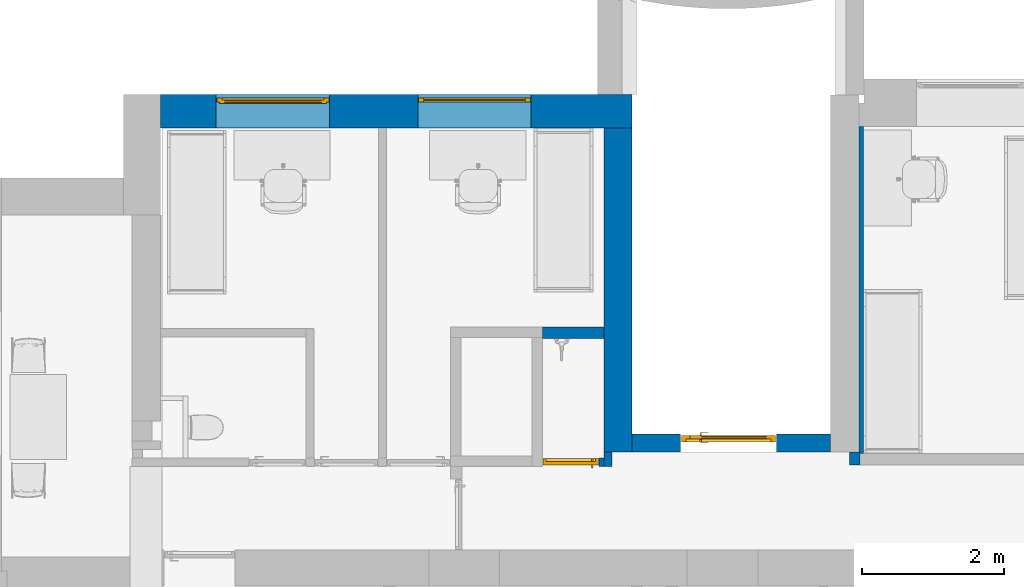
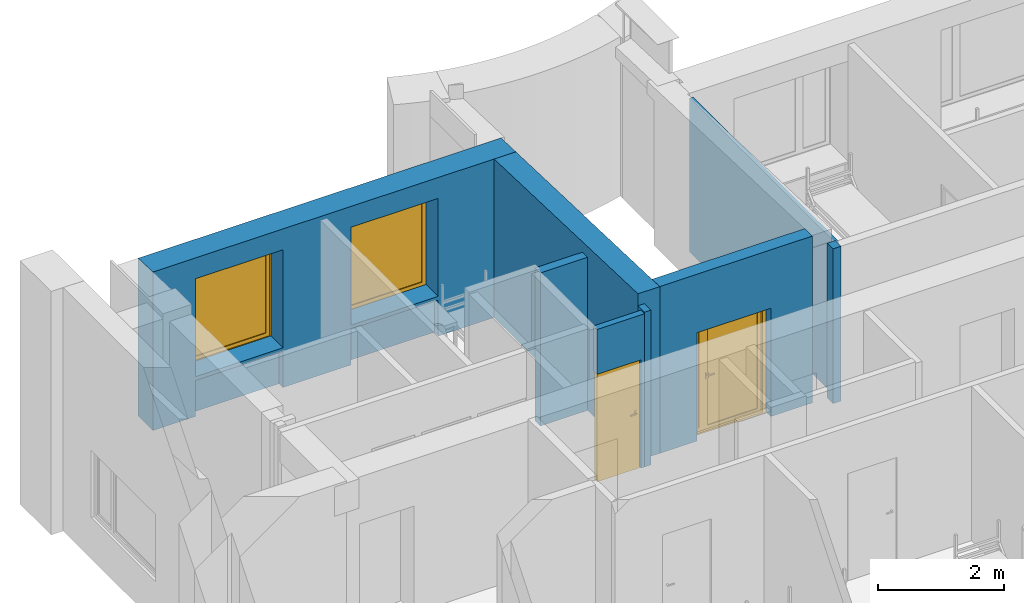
# One storey, part 6 of 46: 8 walls, 2 doors, 2 windows, 5 openings.
"""IFC2X3 building model written with IfcOpenShell, lengths in millimetres."""

from ifc_helpers import new_model, entity, si_unit, converted_unit, derived_unit, direction, frame, frame_2d, origin, origin_2d_with_axis, place, context, subcontext, project, spatial, polyline, rectangle, outline, extrude, clip, bounded_halfspace, faceted_brep, source, transform, mapped, material, material_list, layer, layer_set, layer_usage, type_object, type_shapes, element, fill, save


model = new_model("IFC2X3")

# Units and contexts
model_context = context("Model", 3, precision=0.01, world=origin(), true_north=direction((6.12303176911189e-17, 1.0)))
body_context = subcontext(model_context, "Body", "Model", "MODEL_VIEW")
ifc_project = project(units=[si_unit("LENGTHUNIT", "METRE", prefix="MILLI"), si_unit("AREAUNIT", "SQUARE_METRE"), si_unit("VOLUMEUNIT", "CUBIC_METRE"), converted_unit("PLANEANGLEUNIT", "DEGREE", entity("IfcRatioMeasure", 0.0174532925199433), si_unit("PLANEANGLEUNIT", "RADIAN"), dimensions=[0, 0, 0, 0, 0, 0, 0]), si_unit("MASSUNIT", "GRAM", prefix="KILO"), derived_unit("MASSDENSITYUNIT", [(si_unit("MASSUNIT", "GRAM", prefix="KILO"), 1), (si_unit("LENGTHUNIT", "METRE"), -3)]), si_unit("TIMEUNIT", "SECOND"), si_unit("FREQUENCYUNIT", "HERTZ"), si_unit("THERMODYNAMICTEMPERATUREUNIT", "DEGREE_CELSIUS"), derived_unit("THERMALTRANSMITTANCEUNIT", [(si_unit("MASSUNIT", "GRAM", prefix="KILO"), 1), (si_unit("THERMODYNAMICTEMPERATUREUNIT", "KELVIN"), -1), (si_unit("TIMEUNIT", "SECOND"), -3)]), derived_unit("VOLUMETRICFLOWRATEUNIT", [(si_unit("LENGTHUNIT", "METRE"), 3), (si_unit("TIMEUNIT", "SECOND"), -1)]), si_unit("ELECTRICCURRENTUNIT", "AMPERE"), si_unit("ELECTRICVOLTAGEUNIT", "VOLT"), si_unit("POWERUNIT", "WATT"), si_unit("FORCEUNIT", "NEWTON", prefix="KILO"), si_unit("ILLUMINANCEUNIT", "LUX"), si_unit("LUMINOUSFLUXUNIT", "LUMEN"), si_unit("LUMINOUSINTENSITYUNIT", "CANDELA"), derived_unit("USERDEFINED", [(si_unit("MASSUNIT", "GRAM", prefix="KILO"), -1), (si_unit("LENGTHUNIT", "METRE"), -2), (si_unit("TIMEUNIT", "SECOND"), 3), (si_unit("LUMINOUSFLUXUNIT", "LUMEN"), 1)]), derived_unit("LINEARVELOCITYUNIT", [(si_unit("LENGTHUNIT", "METRE"), 1), (si_unit("TIMEUNIT", "SECOND"), -1)]), si_unit("PRESSUREUNIT", "PASCAL"), derived_unit("USERDEFINED", [(si_unit("LENGTHUNIT", "METRE"), -2), (si_unit("MASSUNIT", "GRAM", prefix="KILO"), 1), (si_unit("TIMEUNIT", "SECOND"), -2)]), derived_unit("LINEARFORCEUNIT", [(si_unit("MASSUNIT", "GRAM", prefix="KILO"), 1), (si_unit("LENGTHUNIT", "METRE"), 1), (si_unit("TIMEUNIT", "SECOND"), -2), (si_unit("LENGTHUNIT", "METRE"), -1)]), derived_unit("PLANARFORCEUNIT", [(si_unit("MASSUNIT", "GRAM", prefix="KILO"), 1), (si_unit("LENGTHUNIT", "METRE"), 1), (si_unit("TIMEUNIT", "SECOND"), -2), (si_unit("LENGTHUNIT", "METRE"), -2)])], contexts=[model_context])

# Site, building, storey
site_placement = place(None, origin())
site = spatial("IfcSite", under=ifc_project, at=site_placement, Name="Default", CompositionType="ELEMENT")
building_placement = place(site_placement, origin())
building = spatial("IfcBuilding", under=site, at=building_placement, Name="SMA ARH", CompositionType="ELEMENT")
storey_placement = place(building_placement, frame((0.0, 0.0, 9910.0)))
storey = spatial("IfcBuildingStorey", under=building, at=storey_placement, Name="4 Korrus", CompositionType="ELEMENT", Elevation=9909.9999999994)

# Wall
ifc_material_1 = material(Name="_ol.olev sein")
ifc_layer_1 = layer(ifc_material_1, 400.0)
ifc_layer_set_1 = layer_set([ifc_layer_1], Name="Basic Wall:Generic - 400mm")
ifc_layer_usage_1 = layer_usage(ifc_layer_set_1, "AXIS2", "POSITIVE", -200.0)
wall_type_1 = type_object("IfcWallType", Name="Basic Wall:Generic - 400mm", PredefinedType="STANDARD", material=ifc_layer_set_1)
wall_1_placement = place(storey_placement, frame((8600.0, 12476.2030428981, 0.0), z_axis=(0.0, 0.0, 1.0), x_axis=(0.0, -1.0, 0.0)))
element("IfcWallStandardCase", 1, at=wall_1_placement, inside=storey, type_object=wall_type_1, material=ifc_layer_usage_1, Name="Basic Wall:Generic - 400mm", ObjectType="Basic Wall:Generic - 400mm", context=body_context, shape_type="Clipping", body=[
    clip(extrude(rectangle(XDim=4571.20304289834, YDim=400.0, at=frame_2d((2285.60152144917, 2.8421709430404e-14), x_axis=(-1.0, 0.0))), origin(), (0.0, 0.0, 1.0), 3233.68324752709), bounded_halfspace(frame((0.0, -200.0, 3074.05331976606), z_axis=(-0.0348994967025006, 0.0, 0.999390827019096), x_axis=(0.0, -1.0, 0.0)), False, frame((0.0, -200.0, 3074.05331976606), z_axis=(-0.0348994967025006, 0.0, 0.999390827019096), x_axis=(0.0, -1.0, 0.0)), polyline([(0.0, 0.0), (0.0, 4573.98939365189), (-400.0, 4573.98939365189), (-400.0, 0.0), (0.0, 0.0)]))),
])

# Wall, opening, door
ifc_layer_2 = layer(ifc_material_1, 250.0)
ifc_layer_set_2 = layer_set([ifc_layer_2], Name="Basic Wall:Generic - 250mm")
ifc_layer_usage_2 = layer_usage(ifc_layer_set_2, "AXIS2", "POSITIVE", -125.0)
wall_type_2 = type_object("IfcWallType", Name="Basic Wall:Generic - 250mm", PredefinedType="STANDARD", material=ifc_layer_set_2)
wall_2_placement = place(storey_placement, frame((8800.0, 8030.0, 0.0)))
wall_2 = element("IfcWallStandardCase", 2, at=wall_2_placement, inside=storey, type_object=wall_type_2, material=ifc_layer_usage_2, Name="Basic Wall:Generic - 250mm", ObjectType="Basic Wall:Generic - 250mm", context=body_context, shape_type="Clipping", body=[
    clip(extrude(rectangle(XDim=2800.0, YDim=249.999999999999, at=frame_2d((1400.0, 0.0), x_axis=(-1.0, 0.0))), origin(), (0.0, 0.0, 1.0), 3233.68324752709), bounded_halfspace(frame((0.0, -125.0, 3233.68324752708), z_axis=(0.0, 0.0348994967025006, 0.999390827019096), x_axis=(-1.0, 0.0, 0.0)), False, frame((0.0, -125.0, 3233.68324752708), z_axis=(0.0, 0.0348994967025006, 0.999390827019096), x_axis=(-1.0, 0.0, 0.0)), polyline([(0.0, 0.0), (-2800.0, 0.0), (-2800.0, -15.0091431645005), (-2800.0, -250.152386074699), (0.0, -250.152386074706), (0.0, 0.0)]))),
])
opening_1_placement = place(wall_2_placement, frame((685.0, -125.0, 0.0)))
opening_1 = element("IfcOpeningElement", 3, at=opening_1_placement, cuts=wall_2, Name="SMA_D02, 2-poolne:SU-AL-03 - 1350x2100:1", ObjectType="Opening", context=body_context, shape_type="SweptSolid", body=[
    extrude(rectangle(XDim=2099.99999999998, YDim=1350.0, at=frame_2d((1049.99999999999, 675.0), x_axis=(1.0, 0.0))), frame((0.0, 0.0, 0.0), z_axis=(0.0, 1.0, 0.0), x_axis=(0.0, 0.0, 1.0)), (0.0, 0.0, 1.0), 250.0),
])
ifc_material_2 = material(Name="EST. Metall. Plekk. Värvitud. RAL7023 (Concrete grey)")
ifc_material_3 = material(Name="EST. Klaas. 3x. Default")
ifc_material_list_1 = material_list([ifc_material_2, ifc_material_3])
ifc_material_4 = material(Name="<Unnamed>")
ifc_material_list_2 = material_list([ifc_material_2, ifc_material_4, ifc_material_2, ifc_material_2, ifc_material_4, ifc_material_3, ifc_material_4])
door_style_1 = type_object("IfcDoorStyle", Name="SMA_D02, 2-poolne:SU-AL-03 - 1350x2100", ConstructionType="NOTDEFINED", OperationType="NOTDEFINED", ParameterTakesPrecedence=False, Sizeable=False, material=ifc_material_list_2)
shared_shape_1 = source(origin(), body_context, "Body", "Brep", [
    faceted_brep([(297.499999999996, 140.0, 1100.0), (297.499999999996, 178.0, 1100.0), (272.499999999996, 178.0, 1100.0), (272.499999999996, 135.0, 1100.0), (392.499999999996, 135.0, 1100.0), (392.499999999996, 140.0, 1100.0), (297.499999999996, 140.0, 1075.0), (392.499999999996, 140.0, 1075.0), (392.499999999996, 135.0, 1075.0), (272.499999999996, 135.0, 1075.0), (272.499999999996, 178.0, 1075.0), (297.499999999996, 178.0, 1075.0)], [[[0, 1, 2, 3, 4, 5]], [[6, 7, 8, 9, 10, 11]], [[1, 0, 6, 11]], [[2, 1, 11, 10]], [[3, 2, 10, 9]], [[4, 3, 9, 8]], [[5, 4, 8, 7]], [[0, 5, 7, 6]]]),
    faceted_brep([(310.0, 178.0, 1125.0), (310.0, 180.0, 1125.0), (260.0, 180.0, 1125.0), (260.0, 178.0, 1125.0), (310.0, 178.0, 1005.0), (260.0, 178.0, 1005.0), (260.0, 180.0, 1005.0), (310.0, 180.0, 1005.0)], [[[0, 1, 2, 3]], [[4, 5, 6, 7]], [[1, 0, 4, 7]], [[2, 1, 7, 6]], [[3, 2, 6, 5]], [[0, 3, 5, 4]]]),
    faceted_brep([(297.499999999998, 270.0, 1100.0), (392.499999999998, 270.0, 1100.0), (392.499999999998, 275.0, 1100.0), (272.499999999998, 275.0, 1100.0), (272.499999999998, 232.0, 1100.0), (297.499999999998, 232.0, 1100.0), (297.499999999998, 270.0, 1075.0), (297.499999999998, 232.0, 1075.0), (272.499999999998, 232.0, 1075.0), (272.499999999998, 275.0, 1075.0), (392.499999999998, 275.0, 1075.0), (392.499999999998, 270.0, 1075.0)], [[[0, 1, 2, 3, 4, 5]], [[6, 7, 8, 9, 10, 11]], [[5, 7, 6, 0]], [[4, 8, 7, 5]], [[3, 9, 8, 4]], [[2, 10, 9, 3]], [[1, 11, 10, 2]], [[0, 6, 11, 1]]]),
    faceted_brep([(310.0, 232.0, 1125.0), (260.0, 232.0, 1125.0), (260.0, 230.0, 1125.0), (310.0, 230.0, 1125.0), (310.0, 232.0, 1005.0), (310.0, 230.0, 1005.0), (260.0, 230.0, 1005.0), (260.0, 232.0, 1005.0)], [[[0, 1, 2, 3]], [[4, 5, 6, 7]], [[3, 5, 4, 0]], [[2, 6, 5, 3]], [[1, 7, 6, 2]], [[0, 4, 7, 1]]]),
    faceted_brep([(1274.5, 140.0, 30.0), (1274.5, 140.0, 0.0), (1274.5, 180.0, 0.0), (1274.5, 180.0, 20.0), (1274.5, 180.0, 30.0), (75.4999999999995, 140.0, 30.0), (75.4999999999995, 180.0, 30.0), (75.4999999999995, 180.0, 20.0), (75.4999999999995, 180.0, 0.0), (75.4999999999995, 140.0, 0.0), (65.4999999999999, 180.0, 0.0), (65.4999999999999, 230.0, 0.0), (1284.5, 230.0, 0.0), (1284.5, 180.0, 0.0), (1284.5, 230.0, 20.0), (1284.5, 180.0, 20.0), (65.4999999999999, 230.0, 20.0), (65.4999999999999, 180.0, 20.0)], [[[0, 1, 2, 3, 4]], [[5, 6, 7, 8, 9]], [[1, 0, 5, 9]], [[2, 1, 9, 8, 10, 11, 12, 13]], [[6, 4, 3, 7]], [[0, 4, 6, 5]], [[14, 15, 13, 12]], [[16, 11, 10, 17]], [[15, 14, 16, 17, 7, 3]], [[13, 15, 3, 2]], [[14, 12, 11, 16]], [[17, 10, 8, 7]]]),
    faceted_brep([(1340.0, 140.0, 0.0), (1274.5, 140.0, 0.0), (1274.5, 180.0, 0.0), (1284.5, 180.0, 0.0), (1284.5, 230.0, 0.0), (1340.0, 230.0, 0.0), (1340.0, 140.0, 2090.0), (10.0, 140.0, 2090.0), (10.0, 140.0, 0.0), (75.4999999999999, 140.0, 0.0), (75.4999999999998, 140.0, 2024.49999999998), (1274.5, 140.0, 2024.49999999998), (1274.5, 180.0, 2024.49999999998), (75.5000000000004, 180.0, 2024.49999999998), (75.5000000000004, 180.0, 0.0), (65.5000000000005, 180.0, 0.0), (65.5000000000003, 180.0, 2034.49999999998), (1284.5, 180.0, 2034.49999999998), (1284.5, 230.0, 2034.49999999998), (65.5000000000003, 230.0, 2034.49999999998), (65.5000000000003, 230.0, 0.0), (10.0, 230.0, 0.0), (10.0, 230.0, 2090.0), (1340.0, 230.0, 2090.0)], [[[0, 1, 2, 3, 4, 5]], [[1, 0, 6, 7, 8, 9, 10, 11]], [[2, 1, 11, 12]], [[3, 2, 12, 13, 14, 15, 16, 17]], [[4, 3, 17, 18]], [[5, 4, 18, 19, 20, 21, 22, 23]], [[0, 5, 23, 6]], [[8, 7, 22, 21]], [[9, 8, 21, 20, 15, 14]], [[10, 9, 14, 13]], [[16, 15, 20, 19]], [[11, 10, 13, 12]], [[17, 16, 19, 18]], [[7, 6, 23, 22]]]),
    faceted_brep([(140.500000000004, 195.0, 95.0), (140.500000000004, 195.0, 1955.0), (125.0, 195.0, 1955.0), (125.0, 195.0, 95.0), (140.500000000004, 215.0, 95.0), (125.0, 215.0, 95.0), (125.0, 215.0, 1955.0), (140.500000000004, 215.0, 1955.0)], [[[0, 1, 2, 3]], [[4, 5, 6, 7]], [[0, 3, 5, 4]], [[3, 2, 6, 5]], [[2, 1, 7, 6]], [[1, 0, 4, 7]]]),
    faceted_brep([(295.0, 195.0, 95.0), (1209.5, 195.0, 95.0), (1209.5, 195.0, 1955.0), (295.0, 195.0, 1955.0), (295.0, 215.0, 95.0), (295.0, 215.0, 1955.0), (1209.5, 215.0, 1955.0), (1209.5, 215.0, 95.0)], [[[0, 1, 2, 3]], [[4, 5, 6, 7]], [[1, 0, 4, 7]], [[2, 1, 7, 6]], [[3, 2, 6, 5]], [[0, 3, 5, 4]]]),
    faceted_brep([(210.0, 180.0, 2034.49999999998), (65.4999999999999, 180.0, 2034.49999999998), (65.4999999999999, 180.0, 20.0), (210.0, 180.0, 20.0), (140.500000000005, 180.0, 1955.0), (140.500000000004, 180.0, 95.0), (125.0, 180.0, 95.0), (125.0, 180.0, 1955.0), (210.0, 230.0, 2034.49999999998), (210.0, 230.0, 20.0), (65.4999999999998, 230.0, 20.0), (65.4999999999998, 230.0, 2034.49999999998), (140.500000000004, 230.0, 95.0), (140.500000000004, 230.0, 1955.0), (125.0, 230.0, 1955.0), (125.0, 230.0, 95.0)], [[[0, 1, 2, 3], [4, 5, 6, 7]], [[8, 9, 10, 11], [12, 13, 14, 15]], [[1, 0, 8, 11]], [[2, 1, 11, 10]], [[3, 2, 10, 9]], [[0, 3, 9, 8]], [[12, 5, 4, 13]], [[5, 12, 15, 6]], [[6, 15, 14, 7]], [[7, 14, 13, 4]]]),
    faceted_brep([(210.0, 180.0, 2034.49999999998), (210.0, 180.0, 20.0), (1284.5, 180.0, 20.0), (1284.5, 180.0, 2034.49999999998), (295.0, 180.0, 95.0), (295.0, 180.0, 1955.0), (1209.5, 180.0, 1955.0), (1209.5, 180.0, 95.0), (210.0, 230.0, 2034.49999999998), (1284.5, 230.0, 2034.49999999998), (1284.5, 230.0, 20.0), (210.0, 230.0, 20.0), (295.0, 230.0, 1955.0), (295.0, 230.0, 95.0), (1209.5, 230.0, 95.0), (1209.5, 230.0, 1955.0)], [[[0, 1, 2, 3], [4, 5, 6, 7]], [[8, 9, 10, 11], [12, 13, 14, 15]], [[1, 0, 8, 11]], [[2, 1, 11, 10]], [[3, 2, 10, 9]], [[0, 3, 9, 8]], [[12, 5, 4, 13]], [[13, 4, 7, 14]], [[14, 7, 6, 15]], [[5, 12, 15, 6]]]),
])
type_shapes(door_style_1, [shared_shape_1])
door_1_placement = place(opening_1_placement, origin())
door_1 = element("IfcDoor", 4, at=door_1_placement, inside=storey, type_object=door_style_1, material=ifc_material_list_1, Name="SMA_D02, 2-poolne:SU-AL-03 - 1350x2100", ObjectType="SMA_D02, 2-poolne:SU-AL-03 - 1350x2100", OverallHeight=2099.99999999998, OverallWidth=1350.0, context=body_context, shape_type="MappedRepresentation", body=[
    mapped(shared_shape_1, transform((0.0, 0.0, 0.0), scale=1.0)),
])
fill(opening_1, door_1)

# Wall, openings, windows
ifc_layer_3 = layer(ifc_material_1, 470.0)
ifc_layer_set_3 = layer_set([ifc_layer_3], Name="Basic Wall:Generic - 470mm")
ifc_layer_usage_3 = layer_usage(ifc_layer_set_3, "AXIS2", "NEGATIVE", 235.0)
wall_type_3 = type_object("IfcWallType", Name="Basic Wall:Generic - 470mm", PredefinedType="STANDARD", material=ifc_layer_set_3)
wall_3_placement = place(storey_placement, frame((2145.0, 12711.2030428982, 0.0)))
wall_3 = element("IfcWallStandardCase", 5, at=wall_3_placement, inside=storey, type_object=wall_type_3, material=ifc_layer_usage_3, Name="Basic Wall:Generic - 470mm", ObjectType="Basic Wall:Generic - 470mm", context=body_context, shape_type="Clipping", body=[
    clip(extrude(rectangle(XDim=6655.00000000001, YDim=470.000000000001, at=frame_2d((3327.5, -3.41060513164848e-13), x_axis=(-1.0, 0.0))), origin(), (0.0, 0.0, 1.0), 3074.05331976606), bounded_halfspace(frame((0.0, -235.0, 3074.05331976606), z_axis=(0.0, 0.0348994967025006, 0.999390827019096), x_axis=(-1.0, 0.0, 0.0)), False, frame((0.0, -235.0, 3074.05331976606), z_axis=(0.0, 0.0348994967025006, 0.999390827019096), x_axis=(-1.0, 0.0, 0.0)), polyline([(0.0, 0.0), (-6165.0, 0.0), (-6255.0, 0.0), (-6655.0, 0.0), (-6655.0, -470.286485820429), (-6208.24284988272, -470.286485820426), (0.0, -470.286485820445), (0.0, 0.0)]))),
])
opening_2_placement = place(wall_3_placement, origin())
element("IfcOpeningElement", 6, at=opening_2_placement, cuts=wall_3, Name="Basic Wall:Generic - 470mm", ObjectType="Recess", context=body_context, shape_type="SweptSolid", body=[
    extrude(rectangle(XDim=757.825710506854, YDim=1600.0, at=origin_2d_with_axis()), frame((1585.0, -235.0, 318.91285525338), z_axis=(0.0, 1.0, 0.0), x_axis=(0.0, 0.0, -1.0)), (0.0, 0.0, 1.0), 123.796957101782),
    extrude(rectangle(XDim=757.825710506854, YDim=1600.0, at=frame_2d((0.0, 5.11590769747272e-13), x_axis=(1.0, 0.0))), frame((4430.0, -235.0, 318.912855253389), z_axis=(0.0, 1.0, 0.0), x_axis=(0.0, 0.0, -1.0)), (0.0, 0.0, 1.0), 123.796957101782),
])
opening_3_placement = place(wall_3_placement, frame((3630.0, -235.0, 770.0)))
opening_3 = element("IfcOpeningElement", 7, at=opening_3_placement, cuts=wall_3, Name="SMA_W1, 1-jaotus1:A-00_1650x1900 mm kinni:1", ObjectType="Opening", context=body_context, shape_type="SweptSolid", body=[
    extrude(rectangle(XDim=1900.0, YDim=1600.0, at=frame_2d((950.0, 800.0), x_axis=(1.0, 0.0))), frame((0.0, 0.0, 0.0), z_axis=(0.0, 1.0, 0.0), x_axis=(0.0, 0.0, 1.0)), (0.0, 0.0, 1.0), 470.0),
])
opening_4_placement = place(wall_3_placement, frame((785.0, -235.0, 770.0)))
opening_4 = element("IfcOpeningElement", 8, at=opening_4_placement, cuts=wall_3, Name="SMA_W1, 1-jaotus1:A-00_1650x1900 mm:1", ObjectType="Opening", context=body_context, shape_type="SweptSolid", body=[
    extrude(rectangle(XDim=1900.0, YDim=1600.0, at=frame_2d((950.0, 800.0), x_axis=(1.0, 0.0))), frame((0.0, 0.0, 0.0), z_axis=(0.0, 1.0, 0.0), x_axis=(0.0, 0.0, 1.0)), (0.0, 0.0, 1.0), 470.0),
])
ifc_material_5 = material(Name="Default")
ifc_material_list_3 = material_list([ifc_material_5, ifc_material_3])
ifc_material_list_4 = material_list([ifc_material_4, ifc_material_5, ifc_material_5, ifc_material_3, ifc_material_4])
window_style_1 = type_object("IfcWindowStyle", Name="SMA_W1, 1-jaotus1:A-00_1650x1900 mm kinni", ConstructionType="NOTDEFINED", OperationType="NOTDEFINED", ParameterTakesPrecedence=False, Sizeable=False, material=ifc_material_list_4)
shared_shape_2 = source(origin(), body_context, "Body", "SweptSolid", [
    extrude(outline(polyline([(-940.0, -790.0), (940.0, -790.0), (940.0, 790.0), (-940.0, 790.0), (-940.0, -790.0)]), holes=[polyline([(-870.0, -720.0), (-870.0, 720.0), (870.0, 720.0), (870.0, -720.0), (-870.0, -720.0)])]), frame((800.0, 370.0, 950.0), z_axis=(0.0, 1.0, 0.0), x_axis=(0.0, 0.0, 1.0)), (0.0, 0.0, 1.0), 50.0),
    extrude(rectangle(XDim=20.0, YDim=1440.0, at=frame_2d((-2.48689957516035e-14, -5.6843418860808e-14), x_axis=(1.0, 0.0))), frame((800.0, 395.0, 80.0), z_axis=(0.0, 0.0, 1.0), x_axis=(0.0, 1.0, 0.0)), (0.0, 0.0, 1.0), 1740.0),
])
type_shapes(window_style_1, [shared_shape_2])
window_1_placement = place(opening_3_placement, origin())
window_1 = element("IfcWindow", 9, at=window_1_placement, inside=storey, type_object=window_style_1, material=ifc_material_list_3, Name="SMA_W1, 1-jaotus1:A-00_1650x1900 mm kinni", ObjectType="SMA_W1, 1-jaotus1:A-00_1650x1900 mm kinni", OverallHeight=1900.0, OverallWidth=1600.0, context=body_context, shape_type="MappedRepresentation", body=[
    mapped(shared_shape_2, transform((0.0, 0.0, 0.0), scale=1.0)),
])
fill(opening_3, window_1)
ifc_material_list_5 = material_list([ifc_material_3, ifc_material_5])
ifc_material_list_6 = material_list([ifc_material_4, ifc_material_3, ifc_material_4, ifc_material_5, ifc_material_5])
window_style_2 = type_object("IfcWindowStyle", Name="SMA_W1, 1-jaotus1:A-00_1650x1900 mm", ConstructionType="NOTDEFINED", OperationType="NOTDEFINED", ParameterTakesPrecedence=False, Sizeable=False, material=ifc_material_list_6)
shared_shape_3 = source(origin(), body_context, "Body", "SweptSolid", [
    extrude(rectangle(XDim=20.0, YDim=1370.0, at=frame_2d((-1.68753899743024e-14, -1.13686837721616e-13), x_axis=(1.0, 0.0))), frame((800.0, 370.0, 115.0), z_axis=(0.0, 0.0, 1.0), x_axis=(0.0, 1.0, 0.0)), (0.0, 0.0, 1.0), 1670.0),
    extrude(outline(polyline([(-905.0, -755.0), (905.0, -755.0), (905.0, 755.0), (-905.0, 755.0), (-905.0, -755.0)]), holes=[polyline([(835.0, 685.0), (835.0, -685.0), (-835.0, -685.0), (-835.0, 685.0), (835.0, 685.0)])]), frame((800.0, 345.0, 950.0), z_axis=(0.0, 1.0, 0.0), x_axis=(0.0, 0.0, 1.0)), (0.0, 0.0, 1.0), 50.0),
    extrude(outline(polyline([(-940.0, -790.0), (940.0, -790.0), (940.0, 790.0), (-940.0, 790.0), (-940.0, -790.0)]), holes=[polyline([(-870.0, -720.0), (-870.0, 720.0), (870.0, 720.0), (870.0, -720.0), (-870.0, -720.0)])]), frame((800.0, 370.0, 950.0), z_axis=(0.0, 1.0, 0.0), x_axis=(0.0, 0.0, 1.0)), (0.0, 0.0, 1.0), 50.0),
])
type_shapes(window_style_2, [shared_shape_3])
window_2_placement = place(opening_4_placement, origin())
window_2 = element("IfcWindow", 10, at=window_2_placement, inside=storey, type_object=window_style_2, material=ifc_material_list_5, Name="SMA_W1, 1-jaotus1:A-00_1650x1900 mm", ObjectType="SMA_W1, 1-jaotus1:A-00_1650x1900 mm", OverallHeight=1900.0, OverallWidth=1600.0, context=body_context, shape_type="MappedRepresentation", body=[
    mapped(shared_shape_3, transform((0.0, 0.0, 0.0), scale=1.0)),
])
fill(opening_4, window_2)

# Wall
ifc_material_6 = material(Name="EST. Ehitusplaat. Kipsplaat")
ifc_layer_4 = layer(ifc_material_6, 12.5)
ifc_layer_5 = layer(ifc_material_6, 12.5)
ifc_material_7 = material(Name="EST. Soojustus. Mineraalvill. Default")
ifc_layer_6 = layer(ifc_material_7, 50.0)
ifc_layer_7 = layer(ifc_material_6, 12.5)
ifc_layer_8 = layer(ifc_material_7, 50.0)
ifc_layer_9 = layer(ifc_material_6, 12.5)
ifc_layer_10 = layer(ifc_material_6, 12.5)
ifc_layer_set_4 = layer_set([ifc_layer_4, ifc_layer_5, ifc_layer_6, ifc_layer_7, ifc_layer_8, ifc_layer_9, ifc_layer_10], Name="Basic Wall:SS-04_Kips, 50+50 mm metallkarkass 2")
ifc_layer_usage_4 = layer_usage(ifc_layer_set_4, "AXIS2", "NEGATIVE", 81.25)
wall_type_4 = type_object("IfcWallType", Name="Basic Wall:SS-04_Kips, 50+50 mm metallkarkass 2", PredefinedType="STANDARD", material=ifc_layer_set_4)
wall_4_placement = place(storey_placement, frame((7533.72495019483, 9588.75000000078, 0.0)))
element("IfcWallStandardCase", 11, at=wall_4_placement, inside=storey, type_object=wall_type_4, material=ifc_layer_usage_4, Name="Basic Wall:SS-04_Kips, 50+50 mm metallkarkass 2", ObjectType="Basic Wall:SS-04_Kips, 50+50 mm metallkarkass 2", context=body_context, shape_type="SweptSolid", body=[
    extrude(rectangle(XDim=866.275049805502, YDim=162.5, at=frame_2d((433.137524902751, 2.8421709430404e-14), x_axis=(-1.0, 0.0))), origin(), (0.0, 0.0, 1.0), 2970.0000000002),
])

# Wall, opening, door
ifc_layer_11 = layer(ifc_material_6, 12.5)
ifc_layer_12 = layer(ifc_material_6, 12.5)
ifc_layer_13 = layer(ifc_material_7, 66.0)
ifc_layer_14 = layer(ifc_material_6, 12.5)
ifc_layer_15 = layer(ifc_material_6, 12.5)
ifc_layer_set_5 = layer_set([ifc_layer_11, ifc_layer_12, ifc_layer_13, ifc_layer_14, ifc_layer_15], Name="Basic Wall:SS-05_Kips, 66mm metallkarkass")
ifc_layer_usage_5 = layer_usage(ifc_layer_set_5, "AXIS2", "NEGATIVE", 58.0)
wall_type_5 = type_object("IfcWallType", Name="Basic Wall:SS-05_Kips, 66mm metallkarkass", PredefinedType="STANDARD", material=ifc_layer_set_5)
wall_5_placement = place(storey_placement, frame((7533.72495019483, 7758.0, 0.0)))
wall_5 = element("IfcWallStandardCase", 12, at=wall_5_placement, inside=storey, type_object=wall_type_5, material=ifc_layer_usage_5, Name="Basic Wall:SS-05_Kips, 66mm metallkarkass", ObjectType="Basic Wall:SS-05_Kips, 66mm metallkarkass", context=body_context, shape_type="SweptSolid", body=[
    extrude(rectangle(XDim=866.275049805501, YDim=116.0, at=frame_2d((433.137524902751, -4.9737991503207e-14), x_axis=(-1.0, 0.0))), origin(), (0.0, 0.0, 1.0), 2970.0000000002),
])
opening_5_placement = place(wall_5_placement, frame((800.0, 58.0, 0.0)))
opening_5 = element("IfcOpeningElement", 13, at=opening_5_placement, cuts=wall_5, Name="SMA_D01, 1-poolne:SU-M-07 - 800x2100 KORIS.:1", ObjectType="Opening", context=body_context, shape_type="SweptSolid", body=[
    extrude(rectangle(XDim=2099.99999999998, YDim=800.0, at=frame_2d((1049.99999999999, 400.0), x_axis=(1.0, 0.0))), frame((0.0, 0.0, 0.0), z_axis=(0.0, -1.0, 0.0), x_axis=(0.0, 0.0, 1.0)), (0.0, 0.0, 1.0), 116.0),
])
ifc_material_8 = material(Name="EST. Metall. Alumiinium. Värvitud. RAL7023 (Concrete grey)")
ifc_material_list_7 = material_list([ifc_material_4, ifc_material_4, ifc_material_8, ifc_material_4, ifc_material_8, ifc_material_3, ifc_material_8])
door_style_2 = type_object("IfcDoorStyle", Name="SMA_D01, 1-poolne:SU-M-07 - 800x2100 KORIS.", ConstructionType="NOTDEFINED", OperationType="SINGLE_SWING_RIGHT", ParameterTakesPrecedence=False, Sizeable=False, material=ifc_material_list_7)
shared_shape_4 = source(origin(), body_context, "Body", "Brep", [
    faceted_brep([(110.0, 6.0, 1112.5), (110.0, 44.0, 1112.5), (85.0, 44.0, 1112.5), (85.0, 1.0, 1112.5), (205.0, 1.0, 1112.5), (205.0, 6.0, 1112.5), (110.0, 6.0, 1087.5), (205.0, 6.0, 1087.5), (205.0, 1.0, 1087.5), (85.0, 1.0, 1087.5), (85.0, 44.0, 1087.5), (110.0, 44.0, 1087.5)], [[[0, 1, 2, 3, 4, 5]], [[6, 7, 8, 9, 10, 11]], [[1, 0, 6, 11]], [[2, 1, 11, 10]], [[3, 2, 10, 9]], [[4, 3, 9, 8]], [[5, 4, 8, 7]], [[0, 5, 7, 6]]]),
    faceted_brep([(122.5, 44.0, 1137.5), (122.5, 46.0, 1137.5), (72.4999999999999, 46.0, 1137.5), (72.4999999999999, 44.0, 1137.5), (122.5, 44.0, 1017.5), (72.4999999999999, 44.0, 1017.5), (72.4999999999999, 46.0, 1017.5), (122.5, 46.0, 1017.5)], [[[0, 1, 2, 3]], [[4, 5, 6, 7]], [[1, 0, 4, 7]], [[2, 1, 7, 6]], [[3, 2, 6, 5]], [[0, 3, 5, 4]]]),
    faceted_brep([(110.0, 136.0, 1112.5), (205.0, 136.0, 1112.5), (205.0, 141.0, 1112.5), (85.0, 141.0, 1112.5), (85.0, 98.0, 1112.5), (110.0, 98.0, 1112.5), (110.0, 136.0, 1087.5), (110.0, 98.0, 1087.5), (85.0, 98.0, 1087.5), (85.0, 141.0, 1087.5), (205.0, 141.0, 1087.5), (205.0, 136.0, 1087.5)], [[[0, 1, 2, 3, 4, 5]], [[6, 7, 8, 9, 10, 11]], [[5, 7, 6, 0]], [[4, 8, 7, 5]], [[3, 9, 8, 4]], [[2, 10, 9, 3]], [[1, 11, 10, 2]], [[0, 6, 11, 1]]]),
    faceted_brep([(122.5, 98.0, 1137.5), (72.4999999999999, 98.0, 1137.5), (72.4999999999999, 96.0, 1137.5), (122.5, 96.0, 1137.5), (122.5, 98.0, 1017.5), (122.5, 96.0, 1017.5), (72.4999999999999, 96.0, 1017.5), (72.4999999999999, 98.0, 1017.5)], [[[0, 1, 2, 3]], [[4, 5, 6, 7]], [[3, 5, 4, 0]], [[2, 6, 5, 3]], [[1, 7, 6, 2]], [[0, 4, 7, 1]]]),
    faceted_brep([(750.0, 6.0, 30.0), (750.0, 6.0, 0.0), (750.0, 46.0, 0.0), (750.0, 46.0, 20.0), (750.0, 46.0, 30.0), (50.0, 6.0, 30.0), (50.0, 46.0, 30.0), (50.0, 46.0, 20.0), (50.0, 46.0, 0.0), (50.0, 6.0, 0.0), (35.0, 46.0, 0.0), (35.0, 96.0, 0.0), (765.0, 96.0, 0.0), (765.0, 46.0, 0.0), (765.0, 96.0, 20.0), (765.0, 46.0, 20.0), (35.0, 96.0, 20.0), (35.0, 46.0, 20.0)], [[[0, 1, 2, 3, 4]], [[5, 6, 7, 8, 9]], [[1, 0, 5, 9]], [[2, 1, 9, 8, 10, 11, 12, 13]], [[6, 4, 3, 7]], [[0, 4, 6, 5]], [[14, 15, 13, 12]], [[16, 11, 10, 17]], [[15, 14, 16, 17, 7, 3]], [[13, 15, 3, 2]], [[14, 12, 11, 16]], [[17, 10, 8, 7]]]),
    faceted_brep([(790.0, 6.0, 0.0), (750.0, 6.0, 0.0), (750.0, 46.0, 0.0), (765.0, 46.0, 0.0), (765.0, 96.0, 0.0), (790.0, 96.0, 0.0), (790.0, 6.0, 2090.0), (10.0, 6.0, 2090.0), (10.0, 6.0, 0.0), (50.0, 6.0, 0.0), (50.0, 6.0, 2050.0), (750.0, 6.0, 2050.0), (750.0, 46.0, 2050.0), (50.0, 46.0, 2050.0), (50.0, 46.0, 0.0), (35.0, 46.0, 0.0), (35.0, 46.0, 2065.0), (765.0, 46.0, 2065.0), (765.0, 96.0, 2065.0), (35.0, 96.0, 2065.0), (35.0, 96.0, 0.0), (10.0, 96.0, 0.0), (10.0, 96.0, 2090.0), (790.0, 96.0, 2090.0)], [[[0, 1, 2, 3, 4, 5]], [[1, 0, 6, 7, 8, 9, 10, 11]], [[2, 1, 11, 12]], [[3, 2, 12, 13, 14, 15, 16, 17]], [[4, 3, 17, 18]], [[5, 4, 18, 19, 20, 21, 22, 23]], [[0, 5, 23, 6]], [[8, 7, 22, 21]], [[9, 8, 21, 20, 15, 14]], [[10, 9, 14, 13]], [[16, 15, 20, 19]], [[11, 10, 13, 12]], [[17, 16, 19, 18]], [[7, 6, 23, 22]]]),
    faceted_brep([(35.0, 46.0, 2065.0), (35.0, 46.0, 20.0), (765.0, 46.0, 20.0), (765.0, 46.0, 2065.0), (35.0, 96.0, 2065.0), (765.0, 96.0, 2065.0), (765.0, 96.0, 20.0), (35.0, 96.0, 20.0)], [[[0, 1, 2, 3]], [[4, 5, 6, 7]], [[1, 0, 4, 7]], [[2, 1, 7, 6]], [[3, 2, 6, 5]], [[0, 3, 5, 4]]]),
])
type_shapes(door_style_2, [shared_shape_4])
door_2_placement = place(opening_5_placement, frame((0.0, 0.0, 0.0), z_axis=(0.0, 0.0, 1.0), x_axis=(-1.0, 0.0, 0.0)))
door_2 = element("IfcDoor", 14, at=door_2_placement, inside=storey, type_object=door_style_2, material=ifc_material_8, Name="SMA_D01, 1-poolne:SU-M-07 - 800x2100 KORIS.", ObjectType="SMA_D01, 1-poolne:SU-M-07 - 800x2100 KORIS.", OverallHeight=2099.99999999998, OverallWidth=800.0, context=body_context, shape_type="MappedRepresentation", body=[
    mapped(shared_shape_4, transform((0.0, 0.0, 0.0), scale=1.0)),
])
fill(opening_5, door_2)

# Walls
ifc_layer_usage_6 = layer_usage(ifc_layer_set_5, "AXIS2", "NEGATIVE", 58.0)
wall_6_placement = place(storey_placement, frame((8458.0, 7700.0, 0.0), z_axis=(0.0, 0.0, 1.0), x_axis=(0.0, 1.0, 0.0)))
element("IfcWallStandardCase", 15, at=wall_6_placement, inside=storey, type_object=wall_type_5, material=ifc_layer_usage_6, Name="Basic Wall:SS-05_Kips, 66mm metallkarkass", ObjectType="Basic Wall:SS-05_Kips, 66mm metallkarkass", context=body_context, shape_type="SweptSolid", body=[
    extrude(rectangle(XDim=204.999999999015, YDim=116.0, at=frame_2d((102.499999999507, 0.0), x_axis=(-1.0, 0.0))), origin(), (0.0, 0.0, 1.0), 3001.0500000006),
])
ifc_layer_16 = layer(ifc_material_6, 12.5)
ifc_layer_17 = layer(ifc_material_6, 12.5)
ifc_material_9 = material(Name="EST. Õhkvahe. Roov. Kipsplaadi alusroov. Vertikaalne")
ifc_layer_18 = layer(ifc_material_9, 95.0)
ifc_layer_19 = layer(ifc_material_6, 12.5)
ifc_layer_20 = layer(ifc_material_6, 12.5)
ifc_layer_set_6 = layer_set([ifc_layer_16, ifc_layer_17, ifc_layer_18, ifc_layer_19, ifc_layer_20], Name="Basic Wall:SS-04_Kips, 95mm metallkarkass")
ifc_layer_usage_7 = layer_usage(ifc_layer_set_6, "AXIS2", "NEGATIVE", 72.5)
wall_type_6 = type_object("IfcWallType", Name="Basic Wall:SS-04_Kips, 95mm metallkarkass", PredefinedType="STANDARD", material=ifc_layer_set_6)
wall_7_placement = place(storey_placement, frame((11942.5000000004, 7720.0, 0.0), z_axis=(0.0, 0.0, 1.0), x_axis=(0.0, 1.0, 0.0)))
element("IfcWallStandardCase", 16, at=wall_7_placement, inside=storey, type_object=wall_type_6, material=ifc_layer_usage_7, Name="Basic Wall:SS-04_Kips, 95mm metallkarkass", ObjectType="Basic Wall:SS-04_Kips, 95mm metallkarkass", context=body_context, shape_type="Clipping", body=[
    clip(extrude(rectangle(XDim=184.999990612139, YDim=145.000000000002, at=frame_2d((92.4999953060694, 0.0), x_axis=(-1.0, 0.0))), origin(), (0.0, 0.0, 1.0), 3001.0500000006), bounded_halfspace(frame((0.0, -72.4999999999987, 3001.0500000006), z_axis=(0.0, 0.0, -1.0), x_axis=(1.0, 0.0, 0.0)), True, frame((0.0, -72.4999999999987, 3001.0500000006)), polyline([(0.0, 0.0), (162.5, 0.0), (184.999990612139, 0.0), (184.999990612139, 145.0), (0.0, 145.0), (0.0, 0.0)]))),
])
ifc_layer_21 = layer(ifc_material_7, 50.0)
ifc_layer_22 = layer(ifc_material_6, 12.5)
ifc_layer_set_7 = layer_set([ifc_layer_21, ifc_layer_22], Name="Basic Wall:SS-05_Kips, 50mm metallkarkass")
ifc_layer_usage_8 = layer_usage(ifc_layer_set_7, "AXIS2", "POSITIVE", -31.25)
wall_type_7 = type_object("IfcWallType", Name="Basic Wall:SS-05_Kips, 50mm metallkarkass", PredefinedType="STANDARD", material=ifc_layer_set_7)
wall_8_placement = place(storey_placement, frame((12033.0, 12500.0, 0.0), z_axis=(0.0, 0.0, 1.0), x_axis=(0.0, -1.0, 0.0)))
element("IfcWallStandardCase", 17, at=wall_8_placement, inside=storey, type_object=wall_type_7, material=ifc_layer_usage_8, Name="Basic Wall:SS-05_Kips, 50mm metallkarkass", ObjectType="Basic Wall:SS-05_Kips, 50mm metallkarkass", context=body_context, shape_type="SweptSolid", body=[
    extrude(rectangle(XDim=4617.49999061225, YDim=62.4999999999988, at=frame_2d((2308.74999530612, -1.15463194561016e-13), x_axis=(-1.0, 0.0))), origin(), (0.0, 0.0, 1.0), 2980.0000000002),
])

save(model, "model.ifc")
